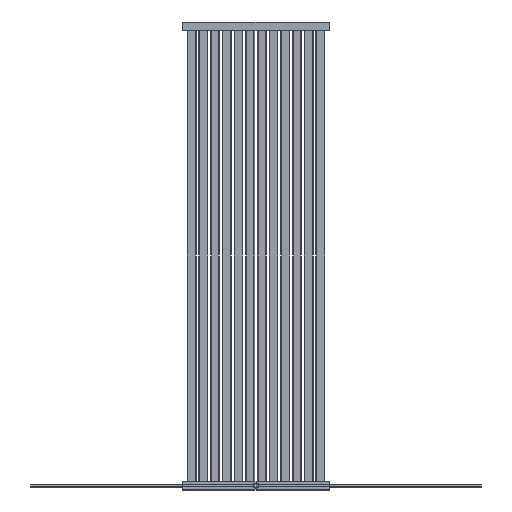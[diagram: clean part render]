
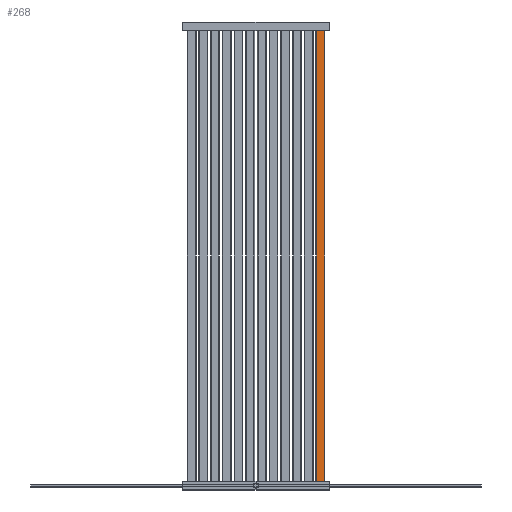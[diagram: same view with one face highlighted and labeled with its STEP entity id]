
A CAD part, front view. The second image highlights one B-rep face of the part: STEP entity #268.
In plain terms, the highlighted planar face has unit normal (0, -1, 0) as drawn and (0, 0, -1) by its records, which use the part's own axes.
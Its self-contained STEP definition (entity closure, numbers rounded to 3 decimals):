
#268 = ADVANCED_FACE( '', ( #357 ), #358, .T. );
#357 = FACE_OUTER_BOUND( '', #433, .T. );
#358 = PLANE( '', #434 );
#433 = EDGE_LOOP( '', ( #647, #648, #649, #650 ) );
#434 = AXIS2_PLACEMENT_3D( '', #651, #652, #653 );
#647 = ORIENTED_EDGE( '', *, *, #747, .T. );
#648 = ORIENTED_EDGE( '', *, *, #750, .T. );
#649 = ORIENTED_EDGE( '', *, *, #737, .F. );
#650 = ORIENTED_EDGE( '', *, *, #751, .T. );
#651 = CARTESIAN_POINT( '', ( 770., 15., -5. ) );
#652 = DIRECTION( '', ( 0., 0., -1. ) );
#653 = DIRECTION( '', ( 0., 1., 0. ) );
#737 = EDGE_CURVE( '', #853, #855, #856, .T. );
#747 = EDGE_CURVE( '', #870, #868, #871, .T. );
#750 = EDGE_CURVE( '', #868, #855, #874, .T. );
#751 = EDGE_CURVE( '', #853, #870, #875, .F. );
#853 = VERTEX_POINT( '', #998 );
#855 = VERTEX_POINT( '', #1000 );
#856 = LINE( '', #1001, #1002 );
#868 = VERTEX_POINT( '', #1019 );
#870 = VERTEX_POINT( '', #1021 );
#871 = LINE( '', #1022, #1023 );
#874 = LINE( '', #1027, #1028 );
#875 = LINE( '', #1029, #1030 );
#998 = CARTESIAN_POINT( '', ( -770., 13., -5. ) );
#1000 = CARTESIAN_POINT( '', ( -770., -13., -5. ) );
#1001 = CARTESIAN_POINT( '', ( -770., 15., -5. ) );
#1002 = VECTOR( '', #1117, 1000. );
#1019 = CARTESIAN_POINT( '', ( 770., -13., -5. ) );
#1021 = CARTESIAN_POINT( '', ( 770., 13., -5. ) );
#1022 = CARTESIAN_POINT( '', ( 770., 15., -5. ) );
#1023 = VECTOR( '', #1135, 1000. );
#1027 = CARTESIAN_POINT( '', ( 770., -13., -5. ) );
#1028 = VECTOR( '', #1140, 1000. );
#1029 = CARTESIAN_POINT( '', ( 770., 13., -5. ) );
#1030 = VECTOR( '', #1141, 1000. );
#1117 = DIRECTION( '', ( 0., -1., 0. ) );
#1135 = DIRECTION( '', ( 0., -1., 0. ) );
#1140 = DIRECTION( '', ( -1., 0., 0. ) );
#1141 = DIRECTION( '', ( -1., 0., 0. ) );
